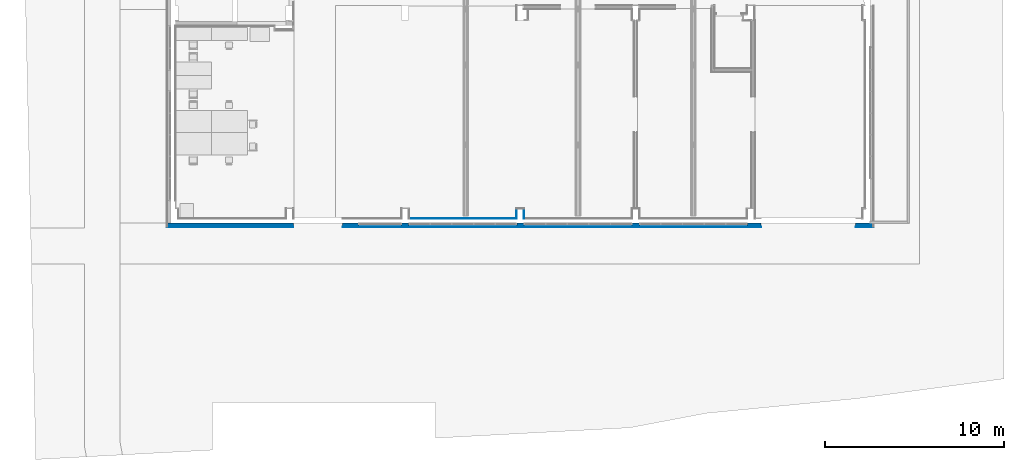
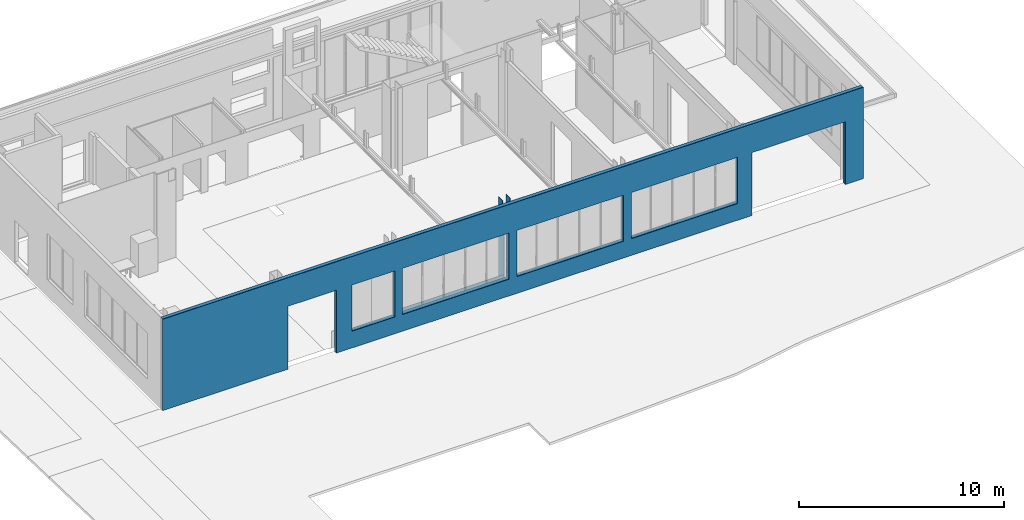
# One storey, part 12 of 27: 5 walls, 12 openings.
"""IFC2X3 building model written with IfcOpenShell, lengths in centimetres."""

from ifc_helpers import new_model, entity, si_unit, converted_unit, derived_unit, direction, frame, frame_2d, origin, origin_2d_with_axis, place, context, subcontext, project, spatial, polyline, rectangle, extrude, clip, bounded_halfspace, material, layer, layer_set, layer_usage, type_object, element, save


model = new_model("IFC2X3")

# Units and contexts
model_context = context("Model", 3, precision=0.001, world=origin(), true_north=direction((6.12303176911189e-17, 1.0)))
body_context = subcontext(model_context, "Body", "Model", "MODEL_VIEW")
ifc_project = project(units=[si_unit("LENGTHUNIT", "METRE", prefix="CENTI"), si_unit("AREAUNIT", "SQUARE_METRE"), si_unit("VOLUMEUNIT", "CUBIC_METRE"), converted_unit("PLANEANGLEUNIT", "DEGREE", entity("IfcRatioMeasure", 0.0174532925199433), si_unit("PLANEANGLEUNIT", "RADIAN"), dimensions=[0, 0, 0, 0, 0, 0, 0]), si_unit("MASSUNIT", "GRAM", prefix="KILO"), derived_unit("MASSDENSITYUNIT", [(si_unit("MASSUNIT", "GRAM", prefix="KILO"), 1), (si_unit("LENGTHUNIT", "METRE"), -3)]), derived_unit("MOMENTOFINERTIAUNIT", [(si_unit("LENGTHUNIT", "METRE"), 4)]), si_unit("TIMEUNIT", "SECOND"), si_unit("FREQUENCYUNIT", "HERTZ"), si_unit("THERMODYNAMICTEMPERATUREUNIT", "DEGREE_CELSIUS"), derived_unit("THERMALTRANSMITTANCEUNIT", [(si_unit("MASSUNIT", "GRAM", prefix="KILO"), 1), (si_unit("THERMODYNAMICTEMPERATUREUNIT", "KELVIN"), -1), (si_unit("TIMEUNIT", "SECOND"), -3)]), derived_unit("VOLUMETRICFLOWRATEUNIT", [(si_unit("LENGTHUNIT", "METRE"), 3), (si_unit("TIMEUNIT", "SECOND"), -1)]), si_unit("ELECTRICCURRENTUNIT", "AMPERE"), si_unit("ELECTRICVOLTAGEUNIT", "VOLT"), si_unit("POWERUNIT", "WATT"), si_unit("FORCEUNIT", "NEWTON", prefix="KILO"), si_unit("ILLUMINANCEUNIT", "LUX"), si_unit("LUMINOUSFLUXUNIT", "LUMEN"), si_unit("LUMINOUSINTENSITYUNIT", "CANDELA"), derived_unit("USERDEFINED", [(si_unit("MASSUNIT", "GRAM", prefix="KILO"), -1), (si_unit("LENGTHUNIT", "METRE"), -2), (si_unit("TIMEUNIT", "SECOND"), 3), (si_unit("LUMINOUSFLUXUNIT", "LUMEN"), 1)]), derived_unit("LINEARVELOCITYUNIT", [(si_unit("LENGTHUNIT", "METRE"), 1), (si_unit("TIMEUNIT", "SECOND"), -1)]), si_unit("PRESSUREUNIT", "PASCAL"), derived_unit("USERDEFINED", [(si_unit("LENGTHUNIT", "METRE"), -2), (si_unit("MASSUNIT", "GRAM", prefix="KILO"), 1), (si_unit("TIMEUNIT", "SECOND"), -2)]), derived_unit("LINEARFORCEUNIT", [(si_unit("MASSUNIT", "GRAM", prefix="KILO"), 1), (si_unit("LENGTHUNIT", "METRE"), 1), (si_unit("TIMEUNIT", "SECOND"), -2), (si_unit("LENGTHUNIT", "METRE"), -1)]), derived_unit("PLANARFORCEUNIT", [(si_unit("MASSUNIT", "GRAM", prefix="KILO"), 1), (si_unit("LENGTHUNIT", "METRE"), 1), (si_unit("TIMEUNIT", "SECOND"), -2), (si_unit("LENGTHUNIT", "METRE"), -2)])], contexts=[model_context])

# Site, building, storey
site_placement = place(None, origin())
site = spatial("IfcSite", under=ifc_project, at=site_placement, Name="Default", CompositionType="ELEMENT")
building_placement = place(site_placement, origin())
building = spatial("IfcBuilding", under=site, at=building_placement, CompositionType="ELEMENT")
storey_placement = place(building_placement, origin())
storey = spatial("IfcBuildingStorey", under=building, at=storey_placement, Name="Poziom 0 A +/-0,00", CompositionType="ELEMENT", Elevation=3.38570427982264e-11)

# Walls
ifc_material_1 = material(Name="Tynk gipsowy")
ifc_layer_1 = layer(ifc_material_1, 2.5)
ifc_layer_set_1 = layer_set([ifc_layer_1], Name="Ściana podstawowa:Tynk wykończenie gr. 2,5cm")
ifc_layer_usage_1 = layer_usage(ifc_layer_set_1, "AXIS2", "POSITIVE", -1.25)
wall_type_1 = type_object("IfcWallType", Name="Ściana podstawowa:Tynk wykończenie gr. 2,5cm", PredefinedType="STANDARD", material=ifc_layer_set_1)
wall_1_placement = place(storey_placement, frame((-1601.7651196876, 281.377499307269, 0.0)))
element("IfcWallStandardCase", 1, at=wall_1_placement, inside=storey, type_object=wall_type_1, material=ifc_layer_usage_1, Name="Ściana podstawowa:Tynk wykończenie gr. 2,5cm", ObjectType="Ściana podstawowa:Tynk wykończenie gr. 2,5cm", context=body_context, shape_type="SweptSolid", body=[
    extrude(rectangle(XDim=600.0, YDim=2.49999999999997, at=frame_2d((300.0, 0.0), x_axis=(-1.0, 0.0))), origin(), (0.0, 0.0, 1.0), 100.0),
])
ifc_layer_usage_2 = layer_usage(ifc_layer_set_1, "AXIS2", "NEGATIVE", 1.25)
wall_2_placement = place(storey_placement, frame((-1000.5151196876, 280.127499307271, 0.0), z_axis=(0.0, 0.0, 1.0), x_axis=(0.0, 1.0, 0.0)))
element("IfcWallStandardCase", 2, at=wall_2_placement, inside=storey, type_object=wall_type_1, material=ifc_layer_usage_2, Name="Ściana podstawowa:Tynk wykończenie gr. 2,5cm", ObjectType="Ściana podstawowa:Tynk wykończenie gr. 2,5cm", context=body_context, shape_type="Clipping", body=[
    clip(clip(extrude(rectangle(XDim=55.0001582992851, YDim=2.49999999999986, at=frame_2d((27.5000791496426, 0.0), x_axis=(-1.0, 0.0))), origin(), (0.0, 0.0, 1.0), 529.999999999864), bounded_halfspace(frame((14.99995276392, 1.24999999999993, 375.0), z_axis=(-1.0, 0.0, 0.0), x_axis=(0.0, 0.0, -1.0)), False, frame((14.99995276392, 1.24999999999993, 375.0), z_axis=(-1.0, 0.0, 0.0), x_axis=(0.0, 0.0, -1.0)), polyline([(0.0, 0.0), (0.0, 2.5000000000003), (-155.0, 2.50000000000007), (-155.0, 0.0), (0.0, 0.0)]))), bounded_halfspace(frame((14.99995276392, -1.25000000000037, 375.0), z_axis=(0.0, 0.0, 1.0), x_axis=(-1.0, 0.0, 0.0)), False, frame((14.99995276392, -1.25000000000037, 375.0), z_axis=(0.0, 0.0, 1.0), x_axis=(-1.0, 0.0, 0.0)), polyline([(0.0, 0.0), (0.0, -2.5000000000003), (14.99995276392, -2.50000000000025), (14.99995276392, 0.0), (0.0, 0.0)]))),
])
ifc_layer_usage_3 = layer_usage(ifc_layer_set_1, "AXIS2", "NEGATIVE", 1.25)
wall_3_placement = place(storey_placement, frame((-958.015119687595, 335.127657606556, 0.0), z_axis=(0.0, 0.0, 1.0), x_axis=(0.0, -1.0, 0.0)))
element("IfcWallStandardCase", 3, at=wall_3_placement, inside=storey, type_object=wall_type_1, material=ifc_layer_usage_3, Name="Ściana podstawowa:Tynk wykończenie gr. 2,5cm", ObjectType="Ściana podstawowa:Tynk wykończenie gr. 2,5cm", context=body_context, shape_type="Clipping", body=[
    clip(clip(extrude(rectangle(XDim=55.0001582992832, YDim=2.50000000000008, at=frame_2d((27.5000791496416, -2.33146835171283e-15), x_axis=(-1.0, 0.0))), origin(), (0.0, 0.0, 1.0), 529.999999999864), bounded_halfspace(frame((40.0002055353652, -1.24999999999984, 375.0), z_axis=(1.0, 0.0, 0.0), x_axis=(0.0, 0.0, -1.0)), False, frame((40.0002055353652, -1.24999999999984, 375.0), z_axis=(1.0, 0.0, 0.0), x_axis=(0.0, 0.0, -1.0)), polyline([(0.0, 0.0), (0.0, 2.49999999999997), (-155.0, 2.49999999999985), (-155.0, 0.0), (0.0, 0.0)]))), bounded_halfspace(frame((40.0002055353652, 1.25000000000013, 375.0)), False, frame((40.0002055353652, 1.25000000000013, 375.0)), polyline([(0.0, 0.0), (0.0, -2.49999999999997), (14.999952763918, -2.50000000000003), (14.999952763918, 0.0), (0.0, 0.0)]))),
])

# Wall, openings
ifc_material_2 = material(Name="Wełna skalna")
ifc_layer_2 = layer(ifc_material_2, 20.0)
ifc_layer_set_2 = layer_set([ifc_layer_2], Name="Ściana podstawowa:Wełna mineralna gr. 20cm")
ifc_layer_usage_4 = layer_usage(ifc_layer_set_2, "AXIS2", "NEGATIVE", 10.0)
wall_type_2 = type_object("IfcWallType", Name="Ściana podstawowa:Wełna mineralna gr. 20cm", PredefinedType="STANDARD", material=ifc_layer_set_2)
wall_4_placement = place(storey_placement, frame((-2954.26512060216, 245.127452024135, 0.0)))
wall_4 = element("IfcWallStandardCase", 4, at=wall_4_placement, inside=storey, type_object=wall_type_2, material=ifc_layer_usage_4, Name="Ściana podstawowa:Wełna mineralna gr. 20cm", ObjectType="Ściana podstawowa:Wełna mineralna gr. 20cm", context=body_context, shape_type="SweptSolid", body=[
    extrude(rectangle(XDim=3950.00000091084, YDim=20.0, at=frame_2d((1975.00000045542, -1.24344978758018e-14), x_axis=(-1.0, 0.0))), origin(), (0.0, 0.0, 1.0), 544.999999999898),
])
opening_1_placement = place(wall_4_placement, origin())
element("IfcOpeningElement", 5, at=opening_1_placement, cuts=wall_4, Name="Ściana podstawowa:Wełna mineralna gr. 20cm", ObjectType="Opening", context=body_context, shape_type="SweptSolid", body=[
    extrude(rectangle(XDim=275.000000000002, YDim=241.497471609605, at=frame_2d((2.8421709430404e-14, 2.1316282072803e-13), x_axis=(1.0, 0.0))), frame((1189.25127824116, 10.0, 237.5), z_axis=(0.0, -1.0, 0.0), x_axis=(0.0, 0.0, 1.0)), (0.0, 0.0, 1.0), 20.0),
])
opening_2_placement = place(wall_4_placement, origin())
element("IfcOpeningElement", 6, at=opening_2_placement, cuts=wall_4, Name="Ściana podstawowa:Wełna mineralna gr. 20cm", ObjectType="Opening", context=body_context, shape_type="SweptSolid", body=[
    extrude(rectangle(XDim=274.999999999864, YDim=604.999996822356, at=frame_2d((0.0, -2.8421709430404e-14), x_axis=(0.0, 1.0))), frame((1652.50013010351, 10.0, 237.499999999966), z_axis=(0.0, -1.0, 0.0), x_axis=(-1.0, 0.0, 0.0)), (0.0, 0.0, 1.0), 20.0),
])
opening_3_placement = place(wall_4_placement, origin())
element("IfcOpeningElement", 7, at=opening_3_placement, cuts=wall_4, Name="Ściana podstawowa:Wełna mineralna gr. 20cm", ObjectType="Opening", context=body_context, shape_type="SweptSolid", body=[
    extrude(rectangle(XDim=274.999999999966, YDim=604.999996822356, at=origin_2d_with_axis()), frame((2297.50013004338, 10.0, 237.500000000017), z_axis=(0.0, -1.0, 0.0), x_axis=(0.0, 0.0, 1.0)), (0.0, 0.0, 1.0), 20.0),
])
opening_4_placement = place(wall_4_placement, origin())
element("IfcOpeningElement", 8, at=opening_4_placement, cuts=wall_4, Name="Ściana podstawowa:Wełna mineralna gr. 20cm", ObjectType="Opening", context=body_context, shape_type="SweptSolid", body=[
    extrude(rectangle(XDim=274.999999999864, YDim=604.999996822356, at=frame_2d((0.0, -2.8421709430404e-14), x_axis=(0.0, 1.0))), frame((2942.50013003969, 10.0, 237.499999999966), z_axis=(0.0, -1.0, 0.0), x_axis=(-1.0, 0.0, 0.0)), (0.0, 0.0, 1.0), 20.0),
])
opening_5_placement = place(wall_4_placement, origin())
element("IfcOpeningElement", 9, at=opening_5_placement, cuts=wall_4, Name="Ściana podstawowa:Wełna mineralna gr. 20cm", ObjectType="Opening", context=body_context, shape_type="SweptSolid", body=[
    extrude(rectangle(XDim=374.999999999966, YDim=275.000030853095, at=frame_2d((-27.5000030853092, 17.5000000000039), x_axis=(0.0, 1.0))), frame((870.000032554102, 10.0, 170.0), z_axis=(0.0, -1.0, 0.0), x_axis=(1.0, 0.0, 0.0)), (0.0, 0.0, 1.0), 20.0),
])
opening_6_placement = place(wall_4_placement, origin())
element("IfcOpeningElement", 10, at=opening_6_placement, cuts=wall_4, Name="Ściana podstawowa:Wełna mineralna gr. 20cm", ObjectType="Opening", context=body_context, shape_type="SweptSolid", body=[
    extrude(rectangle(XDim=374.999999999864, YDim=527.735628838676, at=frame_2d((-2.8421709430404e-14, 8.46966941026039e-12), x_axis=(0.0, 1.0))), frame((3586.13240309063, 10.0, 187.499999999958), z_axis=(0.0, -1.0, 0.0), x_axis=(1.0, 0.0, 0.0)), (0.0, 0.0, 1.0), 20.0),
])

ifc_layer_3 = layer(ifc_material_1, 2.0)
ifc_layer_set_3 = layer_set([ifc_layer_3], Name="Ściana podstawowa:Tynk zewnętrzny gr. 2cm")
ifc_layer_usage_5 = layer_usage(ifc_layer_set_3, "AXIS2", "NEGATIVE", 1.0)
wall_type_3 = type_object("IfcWallType", Name="Ściana podstawowa:Tynk zewnętrzny gr. 2cm", PredefinedType="STANDARD", material=ifc_layer_set_3)
wall_5_placement = place(storey_placement, frame((-2956.26512060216, 234.127452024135, 0.0)))
wall_5 = element("IfcWallStandardCase", 11, at=wall_5_placement, inside=storey, type_object=wall_type_3, material=ifc_layer_usage_5, Name="Ściana podstawowa:Tynk zewnętrzny gr. 2cm", ObjectType="Ściana podstawowa:Tynk zewnętrzny gr. 2cm", context=body_context, shape_type="SweptSolid", body=[
    extrude(rectangle(XDim=3954.0, YDim=1.99999999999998, at=frame_2d((1977.0, 6.49480469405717e-15), x_axis=(-1.0, 0.0))), origin(), (0.0, 0.0, 1.0), 544.999999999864),
])
opening_7_placement = place(wall_5_placement, origin())
element("IfcOpeningElement", 12, at=opening_7_placement, cuts=wall_5, Name="Ściana podstawowa:Tynk zewnętrzny gr. 2cm", ObjectType="Opening", context=body_context, shape_type="SweptSolid", body=[
    extrude(rectangle(XDim=275.000000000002, YDim=241.497471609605, at=origin_2d_with_axis()), frame((1191.25127824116, 1.0, 237.499999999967), z_axis=(0.0, -1.0, 0.0), x_axis=(0.0, 0.0, 1.0)), (0.0, 0.0, 1.0), 2.0),
])
opening_8_placement = place(wall_5_placement, origin())
element("IfcOpeningElement", 13, at=opening_8_placement, cuts=wall_5, Name="Ściana podstawowa:Tynk zewnętrzny gr. 2cm", ObjectType="Opening", context=body_context, shape_type="SweptSolid", body=[
    extrude(rectangle(XDim=274.999999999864, YDim=600.0, at=frame_2d((-1.13686837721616e-13, -2.8421709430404e-14), x_axis=(0.0, 1.0))), frame((1654.50000091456, 1.0, 237.499999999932), z_axis=(0.0, -1.0, 0.0), x_axis=(-1.0, 0.0, 0.0)), (0.0, 0.0, 1.0), 2.0),
])
opening_9_placement = place(wall_5_placement, origin())
element("IfcOpeningElement", 14, at=opening_9_placement, cuts=wall_5, Name="Ściana podstawowa:Tynk zewnętrzny gr. 2cm", ObjectType="Opening", context=body_context, shape_type="SweptSolid", body=[
    extrude(rectangle(XDim=274.999999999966, YDim=599.999885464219, at=frame_2d((-1.4210854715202e-14, 0.0), x_axis=(1.0, 0.0))), frame((2299.4999436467, 1.0, 237.499999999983), z_axis=(0.0, 1.0, 0.0), x_axis=(0.0, 0.0, 1.0)), (0.0, 0.0, -1.0), 2.0),
])
opening_10_placement = place(wall_5_placement, origin())
element("IfcOpeningElement", 15, at=opening_10_placement, cuts=wall_5, Name="Ściana podstawowa:Tynk zewnętrzny gr. 2cm", ObjectType="Opening", context=body_context, shape_type="SweptSolid", body=[
    extrude(rectangle(XDim=274.999999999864, YDim=600.000013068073, at=frame_2d((-2.8421709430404e-14, -2.8421709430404e-14), x_axis=(0.0, 1.0))), frame((2944.50000426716, 1.0, 237.499999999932), z_axis=(0.0, -1.0, 0.0), x_axis=(-1.0, 0.0, 0.0)), (0.0, 0.0, 1.0), 2.0),
])
opening_11_placement = place(wall_5_placement, origin())
element("IfcOpeningElement", 16, at=opening_11_placement, cuts=wall_5, Name="Ściana podstawowa:Tynk zewnętrzny gr. 2cm", ObjectType="Opening", context=body_context, shape_type="SweptSolid", body=[
    extrude(rectangle(XDim=374.999999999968, YDim=275.000030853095, at=frame_2d((-2.1316282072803e-13, 0.0), x_axis=(0.0, 1.0))), frame((844.500029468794, 1.0, 187.499999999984), z_axis=(0.0, -1.0, 0.0), x_axis=(1.0, 0.0, 0.0)), (0.0, 0.0, 1.0), 2.0),
])
opening_12_placement = place(wall_5_placement, origin())
element("IfcOpeningElement", 17, at=opening_12_placement, cuts=wall_5, Name="Ściana podstawowa:Tynk zewnętrzny gr. 2cm", ObjectType="Opening", context=body_context, shape_type="SweptSolid", body=[
    extrude(rectangle(XDim=374.999999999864, YDim=527.735628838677, at=frame_2d((0.0, -8.39861513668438e-12), x_axis=(0.0, 1.0))), frame((3588.13240309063, 1.0, 187.499999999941), z_axis=(0.0, -1.0, 0.0), x_axis=(1.0, 0.0, 0.0)), (0.0, 0.0, 1.0), 2.0),
])

save(model, "model.ifc")
